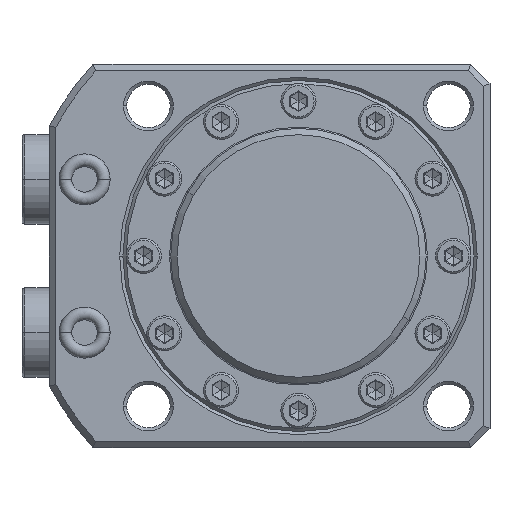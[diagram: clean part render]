
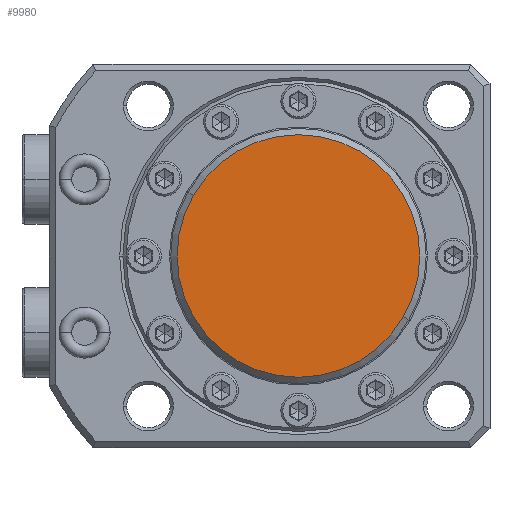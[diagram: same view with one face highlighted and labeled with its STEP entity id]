
A CAD part, front view. The second image highlights one B-rep face of the part: STEP entity #9980.
In plain terms, the highlighted planar face has unit normal (0, -1, 0) as drawn and (0, 0, 1) by its records, which use the part's own axes.
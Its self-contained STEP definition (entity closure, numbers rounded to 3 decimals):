
#8847=CARTESIAN_POINT('',(0.,0.,0.));
#8848=DIRECTION('',(0.,0.,1.));
#8849=DIRECTION('',(-1.,0.,0.));
#8850=AXIS2_PLACEMENT_3D('',#8847,#8848,#8849);
#8852=CARTESIAN_POINT('',(0.,0.,0.));
#8853=DIRECTION('',(0.,0.,1.));
#8854=DIRECTION('',(1.,0.,0.));
#8855=AXIS2_PLACEMENT_3D('',#8852,#8853,#8854);
#9745=CARTESIAN_POINT('',(-19.,0.,0.));
#9746=CARTESIAN_POINT('',(19.,0.,0.));
#9747=VERTEX_POINT('',#9745);
#9748=VERTEX_POINT('',#9746);
#9969=CARTESIAN_POINT('',(0.,0.,0.));
#9970=DIRECTION('',(0.,0.,1.));
#9971=DIRECTION('',(-1.,0.,0.));
#9972=AXIS2_PLACEMENT_3D('',#9969,#9970,#9971);
#9973=PLANE('',#9972);
#9975=ORIENTED_EDGE('',*,*,#9974,.F.);
#9977=ORIENTED_EDGE('',*,*,#9976,.F.);
#9978=EDGE_LOOP('',(#9975,#9977));
#9979=FACE_OUTER_BOUND('',#9978,.F.);
#9980=ADVANCED_FACE('',(#9979),#9973,.T.);
#8851=CIRCLE('',#8850,19.);
#8856=CIRCLE('',#8855,19.);
#9974=EDGE_CURVE('',#9747,#9748,#8851,.T.);
#9976=EDGE_CURVE('',#9748,#9747,#8856,.T.);
